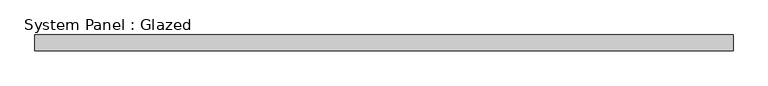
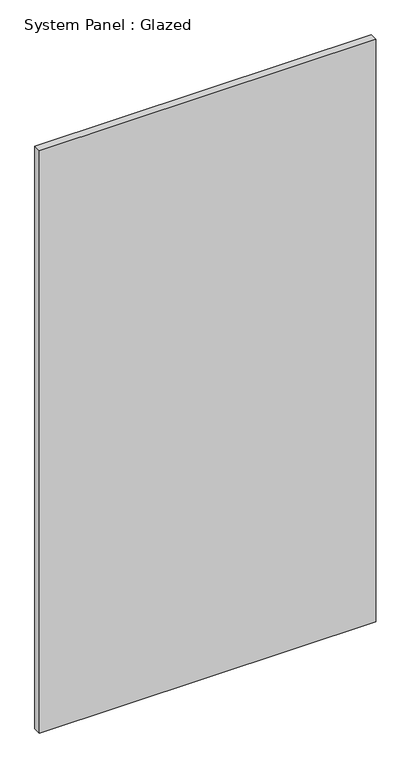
"""IFC4 building model written with IfcOpenShell, lengths in millimetres: plate geometry, System Panel : Glazed."""

from ifc_helpers import new_model, si_unit, origin, origin_with_axes, place, context, project, spatial, polyline, outline, extrude, source, transform, mapped, element, save


def system_panel_glazed_b5f236a0(model_context):
    return source(origin(), model_context, "Body", "SweptSolid", [
        extrude(outline(polyline([(548.4875, -49.5), (-548.4875, -49.5), (-548.4875, -24.5), (548.4875, -24.5), (548.4875, -49.5)])), origin_with_axes(), (0.0, 0.0, 1.0), 2008.0),
    ])


if __name__ == "__main__":
    model = new_model("IFC4")
    model_context = context("Model", 3, world=origin())
    ifc_project = project(units=[si_unit("LENGTHUNIT", "METRE", prefix="MILLI")], contexts=[model_context])
    site = spatial("IfcSite", under=ifc_project)
    building = spatial("IfcBuilding", under=site)
    placement = place(None, origin())
    system_panel_glazed_shape = system_panel_glazed_b5f236a0(model_context)
    element("IfcPlate", 1, ObjectType="System Panel : Glazed", at=placement, inside=building, context=model_context, shape_type="MappedRepresentation", body=[
        mapped(system_panel_glazed_shape, transform((0.0, 0.0, 0.0), x_axis=(1.0, 0.0, 0.0), y_axis=(0.0, 1.0, 0.0), z_axis=(0.0, 0.0, 1.0))),
    ])
    save(model, "model.ifc")
